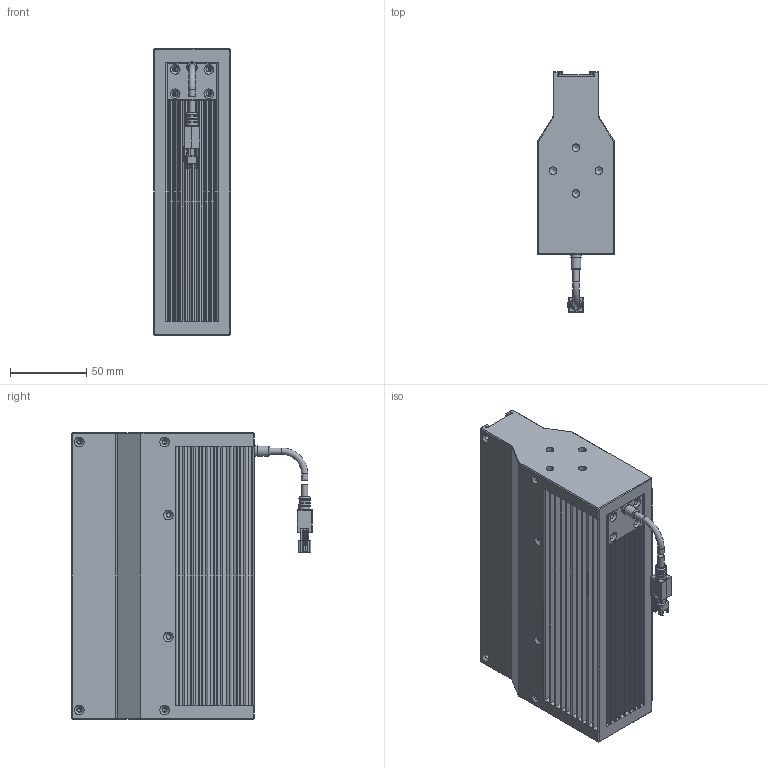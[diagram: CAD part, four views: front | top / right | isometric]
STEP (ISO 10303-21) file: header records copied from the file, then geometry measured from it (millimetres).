
FILE_DESCRIPTION (( 'STEP AP203' ), '1' );
FILE_NAME ('OPT-LSNL188-W-V1.0U尨砩芞.STEP', '2025-02-17T09:02:25', ( '' ), ( '' ), 'SwSTEP 2.0', 'SolidWorks 2016', '' );
FILE_SCHEMA (( 'CONFIG_CONTROL_DESIGN' ));
Length unit declared in the file: millimetre
Products named in the file (1): OPT-LSNL188-W-V1.0U尨砩芞
Bounding box: 50.02 x 158 x 188 mm (x, y, z)
Volume: 698265.9 mm3; surface area: 237295 mm2
Topology: 8 solids, 13 shells, 966 faces, 2674 edges, 1723 vertices
Faces by surface type: plane 580, cylinder 317, cone 44, bspline 17, torus 8
Full cylindrical faces by diameter (mm): 1.1 x2, 1.4 x2, 2.5 x10, 3 x8, 3.4 x16, 4.1 x4, 5 x8, 5.8 x1, 6.5 x1, 7 x1, 7.5 x1
Entity records: 33060 total; most frequent: CARTESIAN_POINT 9420, ORIENTED_EDGE 5022, DIRECTION 4596, EDGE_CURVE 2511, VERTEX_POINT 1666, LINE 1624, VECTOR 1624, AXIS2_PLACEMENT_3D 1486
